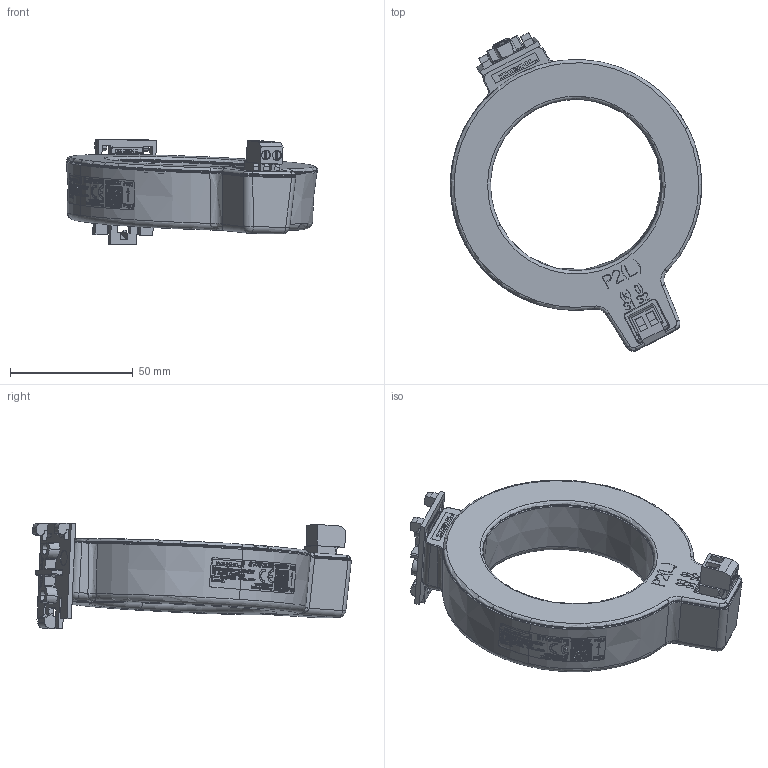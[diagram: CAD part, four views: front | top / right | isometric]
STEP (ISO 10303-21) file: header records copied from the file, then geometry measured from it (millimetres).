
FILE_DESCRIPTION (( 'STEP AP214' ), '1' );
FILE_NAME ('12580-1907-00_3D.STEP', '2013-11-07T06:01:54', ( '' ), ( '' ), 'SwSTEP 2.0', 'SolidWorks 2013', '' );
FILE_SCHEMA (( 'AUTOMOTIVE_DESIGN' ));
Length unit declared in the file: millimetre
Products named in the file (29): V1; SOLID; ASSEMBLY_5; SOLID_7; 12580-1907-00_3D; X1; ASSEMBLY_4; 31020102; S1; ASSEMBLY_3; SOLID_9; SOLID_8; PR1; ASSEMBLY_2; SOLID_6; STWA3D_Gegenstecker; SOLID_5; Typenschild 70 mm; SOLID_4; 12580-1900-01 Tragschienenhalter; SOLID_3; 12580-1905-02 Unterteil Ø70mm; SOLID_2; 12580-1906-02 Deckel Ø70mm; PQ1; Leiterplatte; Board; S2; ASSEMBLY
Assembly tree (29 placements, depth 5):
  12580-1907-00_3D
    Leiterplatte
      PQ1
        ASSEMBLY
          SOLID
        Board
      PR1
        ASSEMBLY_2
          SOLID_2
          SOLID_3
          SOLID_4
          SOLID_5
          SOLID_6
      S1
        ASSEMBLY_3
          SOLID_8
          SOLID_9
      X1
        ASSEMBLY_4
          31020102
      V1
        ASSEMBLY_5
          SOLID_7
      S2
        ASSEMBLY_3
          SOLID_8
          SOLID_9
    12580-1906-02 Deckel Ø70mm
    12580-1905-02 Unterteil Ø70mm
    12580-1900-01 Tragschienenhalter
    Typenschild 70 mm
    STWA3D_Gegenstecker
Bounding box: 102.41 x 129.91 x 43.17 mm (x, y, z)
Volume: 16052.3 mm3; surface area: 57301.3 mm2
Topology: 276 solids, 280 shells, 3635 faces, 9007 edges, 5892 vertices
Faces by surface type: plane 1611, cylinder 935, bspline 635, torus 245, sphere 145, cone 64
Entity records: 200350 total; most frequent: CARTESIAN_POINT 107248, ORIENTED_EDGE 17497, DIRECTION 14614, EDGE_CURVE 8750, VERTEX_POINT 5787, AXIS2_PLACEMENT_3D 5340, LINE 3934, VECTOR 3934
